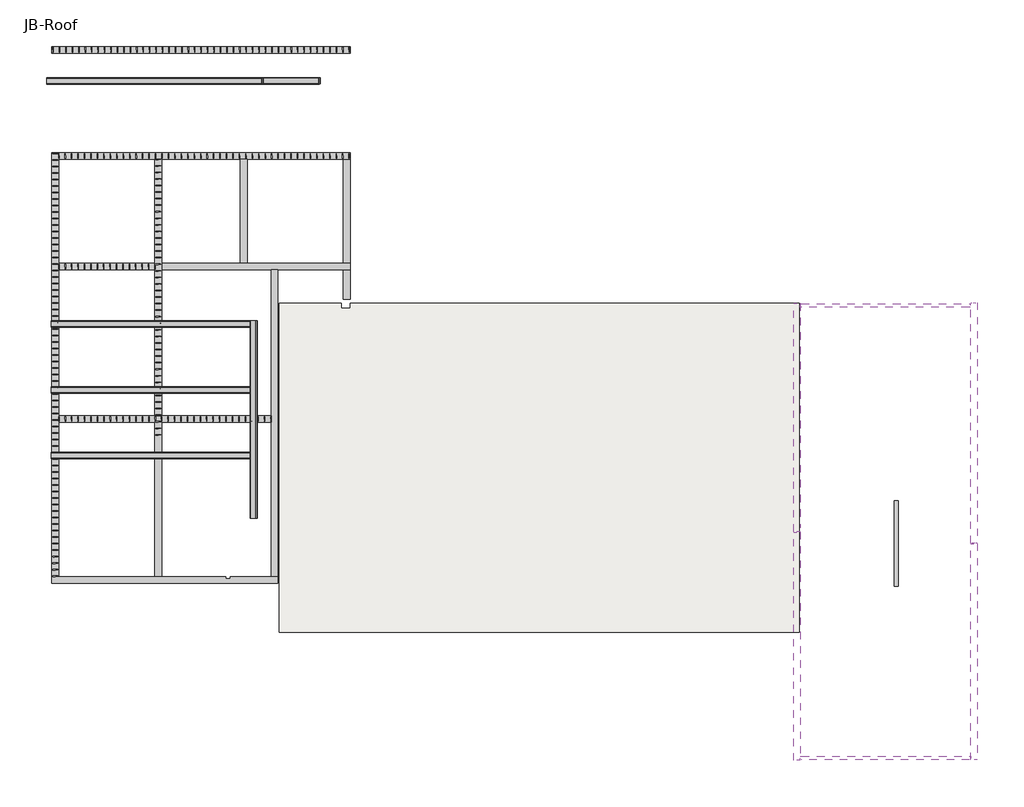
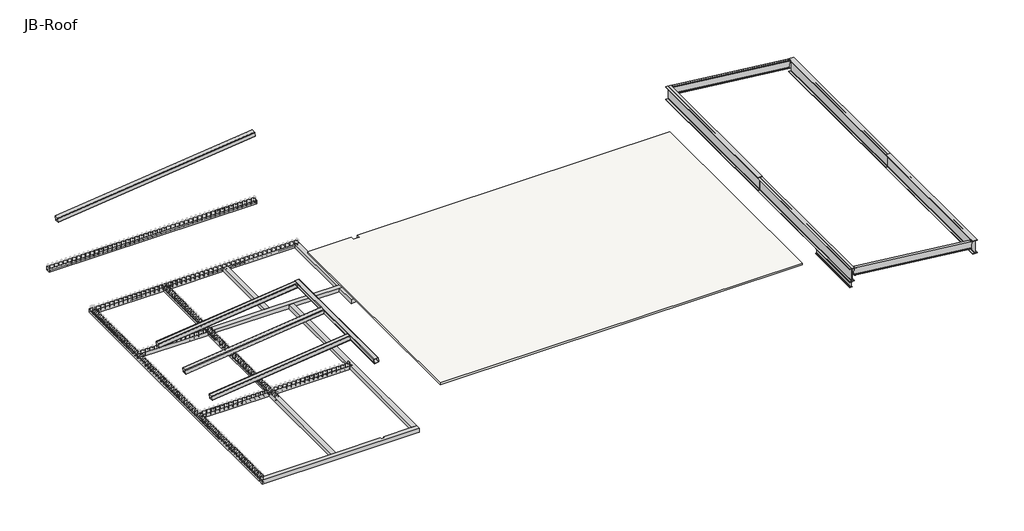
# One storey, part 1 of 3: 27 beams, 1 slab.
"""IFC4 building model written with IfcOpenShell, lengths in millimetres."""

from ifc_helpers import new_model, si_unit, frame, origin, place, context, project, spatial, polyline, outline, extrude, faceted_brep, transform, mapped, element, save
from components import hss_hollow_structural_section_hss12x12x1_2_c205e00b, hss_hollow_structural_section_hss12x12x1_2_65790d26, hss_hollow_structural_section_hss12x12x1_2_75c03b45, hss_hollow_structural_section_hss12x12x1_2_15489e63, hss_hollow_structural_section_hss12x12x1_2_070f9e11, k_series_bar_joist_rod_web_22k4_82dcadde, w_wide_flange_w14x30_17857959, w_wide_flange_w21x44_6d4e9764, w_wide_flange_w21x44_a0252540, w_wide_flange_w36x135_5b543eee, w_wide_flange_w36x135_edb61ff3, w_wide_flange_w36x135_1d218eeb, w_wide_flange_w36x135_915bd06f

model = new_model("IFC4")

# Units and contexts
model_context = context("Model", 3, world=origin())
ifc_project = project(units=[si_unit("LENGTHUNIT", "METRE", prefix="MILLI")], contexts=[model_context])

# Site, building, storey
site = spatial("IfcSite", under=ifc_project)
building = spatial("IfcBuilding", under=site)
storey = spatial("IfcBuildingStorey", under=building, Name="JB-Roof", Elevation=38468.3)

# Beams
placement = place(None, origin())
element("IfcBeam", 1, ObjectType="Concrete-Rectangular Beam : 12 x 18", at=placement, inside=storey, context=model_context, shape_type="Brep", body=[
    faceted_brep([(-20966.7454607, -5025.0304995, 33782.0), (-20560.3454607, -5025.0304995, 33782.0), (-16242.3454607, -5025.0304995, 33782.0), (-15835.9454607, -5025.0304995, 33782.0), (-10936.1763201, -5025.0304995, 33782.0), (-10529.7763201, -5025.0304995, 33782.0), (-10507.5513201, -5025.0304995, 33782.0), (-10507.5513201, -5025.0304995, 34036.0), (-20966.7454607, -5025.0304995, 34036.0), (-20966.7454607, -4720.2304995, 33782.0), (-20661.9454607, -4720.2304995, 33782.0), (-16191.5454607, -4720.2304995, 33782.0), (-15886.7454607, -4720.2304995, 33782.0), (-12913.3579607, -4720.2304995, 33782.0), (-12913.3579607, -4821.8304995, 33782.0), (-12710.1579607, -4821.8304995, 33782.0), (-12710.1579607, -4720.2304995, 33782.0), (-10812.3513201, -4720.2304995, 33782.0), (-10507.5513201, -4720.2304995, 33782.0), (-20966.7454607, -4720.2304995, 34036.0), (-20661.9454607, -4720.2304995, 34036.0), (-16191.5454607, -4720.2304995, 34036.0), (-15886.7454607, -4720.2304995, 34036.0), (-12913.3579607, -4720.2304995, 34036.0), (-10507.5513201, -4720.2304995, 34036.0), (-10812.3513201, -4720.2304995, 34036.0), (-12710.1579607, -4720.2304995, 34036.0), (-12710.1579607, -4821.8304995, 34036.0), (-12913.3579607, -4821.8304995, 34036.0)], [[[0, 1, 2, 3, 4, 5, 6, 7, 8]], [[0, 9, 10, 11, 12, 13, 14, 15, 16, 17, 18, 6, 5, 4, 3, 2, 1]], [[9, 19, 20, 21, 22, 23, 13, 12, 11, 10]], [[9, 0, 8, 19]], [[6, 18, 24, 7]], [[8, 7, 24, 25, 26, 27, 28, 23, 22, 21, 20, 19]], [[28, 14, 13, 23]], [[15, 27, 26, 16]], [[14, 28, 27, 15]], [[24, 18, 17, 16, 26, 25]]]),
])
element("IfcBeam", 2, ObjectType="Concrete-Rectangular Beam : 12 x 18", at=placement, inside=storey, context=model_context, shape_type="Brep", body=[
    faceted_brep([(-20661.9454607, 2429.8695005, 34036.0), (-20661.9454607, 2429.8695005, 33782.0), (-16191.5454607, 2429.8695005, 33782.0), (-15886.7454607, 2429.8695005, 33782.0), (-10812.3513201, 2429.8695005, 33782.0), (-10812.3513201, 2429.8695005, 34036.0), (-15886.7454607, 2429.8695005, 34036.0), (-16191.5454607, 2429.8695005, 34036.0), (-20661.9454607, 2734.6695005, 33782.0), (-16191.5454607, 2734.6695005, 33782.0), (-15886.7454607, 2734.6695005, 33782.0), (-10812.3513201, 2734.6695005, 33782.0), (-20661.9454607, 2734.6695005, 34036.0), (-16191.5454607, 2734.6695005, 34036.0), (-15886.7454607, 2734.6695005, 34036.0), (-10812.3513201, 2734.6695005, 34036.0)], [[[0, 1, 2, 3, 4, 5, 6, 7]], [[1, 8, 9, 10, 11, 4, 3, 2]], [[8, 12, 13, 14, 15, 11, 10, 9]], [[12, 0, 7, 6, 5, 15, 14, 13]], [[1, 0, 12, 8]], [[5, 4, 11, 15]]]),
])
element("IfcBeam", 3, ObjectType="Concrete-Rectangular Beam : 12 x 18", at=placement, inside=storey, context=model_context, shape_type="Brep", body=[
    faceted_brep([(-20661.9454607, -4720.2304995, 33782.0), (-20661.9454607, 2429.8695005, 33782.0), (-20661.9454607, 2734.6695005, 33782.0), (-20661.9454607, 9491.0695005, 33782.0), (-20661.9454607, 9795.8695005, 33782.0), (-20661.9454607, 14621.8695005, 33782.0), (-20661.9454607, 14926.6695005, 33782.0), (-20661.9454607, 14926.6695005, 34036.0), (-20661.9454607, 14621.8695005, 34036.0), (-20661.9454607, 9795.8695005, 34036.0), (-20661.9454607, 9491.0695005, 34036.0), (-20661.9454607, 2734.6695005, 34036.0), (-20661.9454607, 2429.8695005, 34036.0), (-20661.9454607, -4720.2304995, 34036.0), (-20966.7454607, -4720.2304995, 33782.0), (-20966.7454607, -4618.6304995, 33782.0), (-20966.7454607, 2379.0695005, 33782.0), (-20966.7454607, 2785.4695005, 33782.0), (-20966.7454607, 9491.0695005, 33782.0), (-20966.7454607, 9897.4695005, 33782.0), (-20966.7454607, 14520.2695005, 33782.0), (-20966.7454607, 14926.6695005, 33782.0), (-20966.7454607, -4720.2304995, 34036.0), (-20966.7454607, 14926.6695005, 34036.0)], [[[0, 1, 2, 3, 4, 5, 6, 7, 8, 9, 10, 11, 12, 13]], [[0, 14, 15, 16, 17, 18, 19, 20, 21, 6, 5, 4, 3, 2, 1]], [[21, 20, 19, 18, 17, 16, 15, 14, 22, 23]], [[14, 0, 13, 22]], [[13, 12, 11, 10, 9, 8, 7, 23, 22]], [[6, 21, 23, 7]]]),
])
element("IfcBeam", 4, ObjectType="Concrete-Rectangular Beam : 12 x 18", at=placement, inside=storey, context=model_context, shape_type="Brep", body=[
    faceted_brep([(-15886.7454607, 2734.6695005, 34036.0), (-15886.7454607, 2734.6695005, 33782.0), (-15886.7454607, 9491.0695005, 33782.0), (-15886.7454607, 9795.8695005, 33782.0), (-15886.7454607, 14621.8695005, 33782.0), (-15886.7454607, 14621.8695005, 34036.0), (-15886.7454607, 9795.8695005, 34036.0), (-15886.7454607, 9491.0695005, 34036.0), (-15886.7454607, 4866.6820005, 34036.0), (-15886.7454607, 4157.0695005, 34036.0), (-16191.5454607, 2734.6695005, 34036.0), (-16191.5454607, 2734.6695005, 33782.0), (-16191.5454607, 9491.0695005, 34036.0), (-16191.5454607, 9795.8695005, 34036.0), (-16191.5454607, 14621.8695005, 34036.0), (-16191.5454607, 14621.8695005, 33782.0), (-16191.5454607, 9795.8695005, 33782.0), (-16191.5454607, 9491.0695005, 33782.0)], [[[0, 1, 2, 3, 4, 5, 6, 7, 8, 9]], [[1, 0, 10, 11]], [[11, 10, 12, 13, 14, 15, 16, 17]], [[5, 4, 15, 14]], [[1, 11, 17, 16, 15, 4, 3, 2]], [[0, 9, 8, 7, 6, 5, 14, 13, 12, 10]]]),
    faceted_brep([(-15886.7454607, -4720.2304995, 33782.0), (-16191.5454607, -4720.2304995, 33782.0), (-16191.5454607, 2429.8695005, 33782.0), (-15886.7454607, 2429.8695005, 33782.0), (-16191.5454607, 2429.8695005, 34036.0), (-16191.5454607, -4720.2304995, 34036.0), (-15886.7454607, -4720.2304995, 34036.0), (-15886.7454607, 2429.8695005, 34036.0)], [[[0, 1, 2, 3]], [[4, 2, 1, 5]], [[1, 0, 6, 5]], [[6, 7, 4, 5]], [[7, 3, 2, 4]], [[3, 7, 6, 0]]]),
])
element("IfcBeam", 5, ObjectType="Concrete-Rectangular Beam : 12 x 18", at=placement, inside=storey, context=model_context, shape_type="Brep", body=[
    faceted_brep([(-10507.5513201, 8132.1695005, 34036.0), (-10507.5513201, -4720.2304995, 34036.0), (-10507.5513201, -4720.2304995, 33782.0), (-10507.5513201, 9491.0695005, 33782.0), (-10507.5513201, 9491.0695005, 34036.0), (-10812.3513201, -4720.2304995, 33782.0), (-10812.3513201, 2429.8695005, 33782.0), (-10812.3513201, 2734.6695005, 33782.0), (-10812.3513201, 9491.0695005, 33782.0), (-10812.3513201, -4720.2304995, 34036.0), (-10812.3513201, 2429.8695005, 34036.0), (-10812.3513201, 2734.6695005, 34036.0), (-10812.3513201, 9491.0695005, 34036.0)], [[[0, 1, 2, 3, 4]], [[2, 5, 6, 7, 8, 3]], [[5, 9, 10, 11, 12, 8, 7, 6]], [[5, 2, 1, 9]], [[1, 0, 4, 12, 11, 10, 9]], [[4, 3, 8, 12]]]),
])
element("IfcBeam", 6, ObjectType="Concrete-Rectangular Beam : 12 x 18", at=placement, inside=storey, context=model_context, shape_type="Brep", body=[
    faceted_brep([(-20661.9454607, 9491.0695005, 34036.0), (-20661.9454607, 9491.0695005, 33782.0), (-20560.3454607, 9491.0695005, 33782.0), (-16242.3454607, 9491.0695005, 33782.0), (-16191.5454607, 9491.0695005, 33782.0), (-16191.5454607, 9491.0695005, 34036.0), (-20661.9454607, 9795.8695005, 33782.0), (-16191.5454607, 9795.8695005, 33782.0), (-20661.9454607, 9795.8695005, 34036.0), (-16191.5454607, 9795.8695005, 34036.0)], [[[0, 1, 2, 3, 4, 5]], [[1, 6, 7, 4, 3, 2]], [[6, 8, 9, 7]], [[6, 1, 0, 8]], [[5, 4, 7, 9]], [[8, 0, 5, 9]]]),
    faceted_brep([(-7149.1454607, 9491.0695005, 33782.0), (-7149.1454607, 9491.0695005, 34036.0), (-7453.9454607, 9491.0695005, 34036.0), (-10507.5513201, 9491.0695005, 34036.0), (-10812.3513201, 9491.0695005, 34036.0), (-15886.7454607, 9491.0695005, 34036.0), (-15886.7454607, 9491.0695005, 33782.0), (-15835.9454607, 9491.0695005, 33782.0), (-12279.9454607, 9491.0695005, 33782.0), (-11873.5454607, 9491.0695005, 33782.0), (-10812.3513201, 9491.0695005, 33782.0), (-10507.5513201, 9491.0695005, 33782.0), (-7555.5454607, 9491.0695005, 33782.0), (-7453.9454607, 9491.0695005, 33782.0), (-7149.1454607, 9795.8695005, 34036.0), (-7149.1454607, 9795.8695005, 33782.0), (-7453.9454607, 9795.8695005, 33782.0), (-11924.3454607, 9795.8695005, 33782.0), (-12229.1454607, 9795.8695005, 33782.0), (-15886.7454607, 9795.8695005, 33782.0), (-15886.7454607, 9795.8695005, 34036.0), (-12229.1454607, 9795.8695005, 34036.0), (-11924.3454607, 9795.8695005, 34036.0), (-7453.9454607, 9795.8695005, 34036.0)], [[[0, 1, 2, 3, 4, 5, 6, 7, 8, 9, 10, 11, 12, 13]], [[14, 15, 16, 17, 18, 19, 20, 21, 22, 23]], [[15, 0, 13, 12, 11, 10, 9, 8, 7, 6, 19, 18, 17, 16]], [[0, 15, 14, 1]], [[1, 14, 23, 22, 21, 20, 5, 4, 3, 2]], [[6, 5, 20, 19]]]),
])
element("IfcBeam", 7, ObjectType="Concrete-Rectangular Beam : 12 x 18", at=placement, inside=storey, context=model_context, shape_type="Brep", body=[
    faceted_brep([(-20661.9454607, 14621.8695005, 33782.0), (-16191.5454607, 14621.8695005, 33782.0), (-15886.7454607, 14621.8695005, 33782.0), (-12229.1454607, 14621.8695005, 33782.0), (-11924.3454607, 14621.8695005, 33782.0), (-7453.9454607, 14621.8695005, 33782.0), (-7149.1454607, 14621.8695005, 33782.0), (-7149.1454607, 14621.8695005, 34036.0), (-7453.9454607, 14621.8695005, 34036.0), (-11924.3454607, 14621.8695005, 34036.0), (-12229.1454607, 14621.8695005, 34036.0), (-15886.7454607, 14621.8695005, 34036.0), (-16191.5454607, 14621.8695005, 34036.0), (-20661.9454607, 14621.8695005, 34036.0), (-20661.9454607, 14926.6695005, 33782.0), (-20560.3454607, 14926.6695005, 33782.0), (-16242.3454607, 14926.6695005, 33782.0), (-15835.9454607, 14926.6695005, 33782.0), (-12279.9454607, 14926.6695005, 33782.0), (-11873.5454607, 14926.6695005, 33782.0), (-7555.5454607, 14926.6695005, 33782.0), (-7149.1454607, 14926.6695005, 33782.0), (-20661.9454607, 14926.6695005, 34036.0), (-7149.1454607, 14926.6695005, 34036.0)], [[[0, 1, 2, 3, 4, 5, 6, 7, 8, 9, 10, 11, 12, 13]], [[0, 14, 15, 16, 17, 18, 19, 20, 21, 6, 5, 4, 3, 2, 1]], [[21, 20, 19, 18, 17, 16, 15, 14, 22, 23]], [[14, 0, 13, 22]], [[13, 12, 11, 10, 9, 8, 7, 23, 22]], [[6, 21, 23, 7]]]),
])
element("IfcBeam", 8, ObjectType="Concrete-Rectangular Beam : 12 x 18", at=placement, inside=storey, context=model_context, shape_type="SweptSolid", body=[
    extrude(outline(polyline([(-11924.3454607, 9795.8695005), (-12229.1454607, 9795.8695005), (-12229.1454607, 14621.8695005), (-11924.3454607, 14621.8695005), (-11924.3454607, 9795.8695005)])), frame((0.0, 0.0, 33782.0), z_axis=(0.0, 0.0, 1.0), x_axis=(1.0, 0.0, 0.0)), (0.0, 0.0, 1.0), 254.0),
])
element("IfcBeam", 9, ObjectType="Concrete-Rectangular Beam : 12 x 18", at=placement, inside=storey, context=model_context, shape_type="Brep", body=[
    faceted_brep([(-7453.9454607, 14621.8695005, 33782.0), (-7453.9454607, 9795.8695005, 33782.0), (-7453.9454607, 9795.8695005, 34036.0), (-7453.9454607, 14621.8695005, 34036.0), (-7149.1454607, 9795.8695005, 33782.0), (-7149.1454607, 14621.8695005, 33782.0), (-7149.1454607, 14520.2695005, 33782.0), (-7149.1454607, 9897.4695005, 33782.0), (-7149.1454607, 14621.8695005, 34036.0), (-7149.1454607, 9795.8695005, 34036.0)], [[[0, 1, 2, 3]], [[4, 1, 0, 5, 6, 7]], [[4, 7, 6, 5, 8, 9]], [[1, 4, 9, 2]], [[5, 0, 3, 8]], [[3, 2, 9, 8]]]),
])
element("IfcBeam", 10, ObjectType="Concrete-Rectangular Beam : 12 x 18", at=placement, inside=storey, context=model_context, shape_type="SweptSolid", body=[
    extrude(outline(polyline([(-7149.1454607, 19847.9195005), (-7149.1454607, 19543.1195005), (-20966.7454607, 19543.1195005), (-20966.7454607, 19847.9195005), (-7149.1454607, 19847.9195005)])), frame((0.0, 0.0, 33782.0), z_axis=(0.0, 0.0, 1.0), x_axis=(1.0, 0.0, 0.0)), (0.0, 0.0, 1.0), 254.0),
])
element("IfcBeam", 11, ObjectType="Concrete-Rectangular Beam : 12 x 18", at=placement, inside=storey, context=model_context, shape_type="SweptSolid", body=[
    extrude(outline(polyline([(-7453.9454607, 8132.1695005), (-7453.9454607, 9491.0695005), (-7149.1454607, 9491.0695005), (-7149.1454607, 8132.1695005), (-7453.9454607, 8132.1695005)])), frame((0.0, 0.0, 33782.0), z_axis=(0.0, 0.0, 1.0), x_axis=(1.0, 0.0, 0.0)), (0.0, 0.0, 1.0), 254.0),
])
hss_hollow_structural_section_hss12x12x1_2_shape = hss_hollow_structural_section_hss12x12x1_2_c205e00b(model_context)
element("IfcBeam", 12, ObjectType="HSS-Hollow Structural Section : HSS12X12X1/2", at=placement, inside=storey, context=model_context, shape_type="MappedRepresentation", body=[
    mapped(hss_hollow_structural_section_hss12x12x1_2_shape, transform((-11619.5622499, 2480.6695005, 37366.8520628), x_axis=(0.0, -1.0, 0.0), y_axis=(0.9938030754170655, 0.0, 0.11115505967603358), z_axis=(-0.11115505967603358, 0.0, 0.9938030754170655))),
])
hss_hollow_structural_section_hss12x12x1_2_2_shape = hss_hollow_structural_section_hss12x12x1_2_65790d26(model_context)
element("IfcBeam", 13, ObjectType="HSS-Hollow Structural Section : HSS12X12X1/2", at=placement, inside=storey, context=model_context, shape_type="MappedRepresentation", body=[
    mapped(hss_hollow_structural_section_hss12x12x1_2_2_shape, transform((-14730.32539, 18252.7995005, 39127.1188846), x_axis=(-0.9938030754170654, 0.0, -0.11115505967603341), y_axis=(0.0, -1.0, 0.0), z_axis=(-0.11115505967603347, 0.0, 0.9938030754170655))),
])
hss_hollow_structural_section_hss12x12x1_2_3_shape = hss_hollow_structural_section_hss12x12x1_2_75c03b45(model_context)
element("IfcBeam", 14, ObjectType="HSS-Hollow Structural Section : HSS12X12X1/2", at=placement, inside=storey, context=model_context, shape_type="MappedRepresentation", body=[
    mapped(hss_hollow_structural_section_hss12x12x1_2_3_shape, transform((-16306.6763225, 880.4695005, 36842.6069107), x_axis=(0.9938030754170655, 0.0, 0.11115505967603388), y_axis=(0.0, 1.0000000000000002, 0.0), z_axis=(-0.11115505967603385, 0.0, 0.9938030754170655))),
])
hss_hollow_structural_section_hss12x12x1_2_4_shape = hss_hollow_structural_section_hss12x12x1_2_15489e63(model_context)
element("IfcBeam", 15, ObjectType="HSS-Hollow Structural Section : HSS12X12X1/2", at=placement, inside=storey, context=model_context, shape_type="MappedRepresentation", body=[
    mapped(hss_hollow_structural_section_hss12x12x1_2_4_shape, transform((-16306.9056735, 6976.4695005, 36842.5812582), x_axis=(0.9938030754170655, 0.0, 0.1111550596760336), y_axis=(0.0, 1.0000000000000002, 0.0), z_axis=(-0.1111550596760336, 0.0, 0.9938030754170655))),
])
hss_hollow_structural_section_hss12x12x1_2_5_shape = hss_hollow_structural_section_hss12x12x1_2_070f9e11(model_context)
element("IfcBeam", 16, ObjectType="HSS-Hollow Structural Section : HSS12X12X1/2", at=placement, inside=storey, context=model_context, shape_type="MappedRepresentation", body=[
    mapped(hss_hollow_structural_section_hss12x12x1_2_5_shape, transform((-16306.6771812, 3928.4695005, 36842.6068146), x_axis=(0.9938030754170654, 0.0, 0.11115505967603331), y_axis=(0.0, 1.0, 0.0), z_axis=(-0.11115505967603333, 0.0, 0.9938030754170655))),
])
k_series_bar_joist_rod_web_22k4_shape = k_series_bar_joist_rod_web_22k4_82dcadde(model_context)
element("IfcBeam", 17, ObjectType="K-Series Bar Joist-Rod Web : 22K4", at=placement, inside=storey, context=model_context, shape_type="MappedRepresentation", body=[
    mapped(k_series_bar_joist_rod_web_22k4_shape, transform((-8799.8279607, -2186.2515659, 38188.9), x_axis=(0.0, -1.0, 0.0), y_axis=(1.0, 0.0, 0.0), z_axis=(0.0, 0.0, 1.0))),
])
element("IfcBeam", 18, ObjectType="K-Series Bar Joist-Rod Web : 22K4", at=placement, inside=storey, context=model_context, shape_type="MappedRepresentation", body=[
    mapped(k_series_bar_joist_rod_web_22k4_shape, transform((-7272.3354607, -2187.3664501, 38188.9), x_axis=(0.0, -1.0, 0.0), y_axis=(1.0, 0.0, 0.0), z_axis=(0.0, 0.0, 1.0))),
])
element("IfcBeam", 19, ObjectType="K-Series Bar Joist-Rod Web : 22K4", at=placement, inside=storey, context=model_context, shape_type="MappedRepresentation", body=[
    mapped(k_series_bar_joist_rod_web_22k4_shape, transform((-5744.8429607, -2188.4813342, 38188.9), x_axis=(0.0, -1.0, 0.0), y_axis=(1.0, 0.0, 0.0), z_axis=(0.0, 0.0, 1.0))),
])
element("IfcBeam", 20, ObjectType="K-Series Bar Joist-Rod Web : 22K4", at=placement, inside=storey, context=model_context, shape_type="MappedRepresentation", body=[
    mapped(k_series_bar_joist_rod_web_22k4_shape, transform((-4217.3504607, -2189.5962184, 38188.9), x_axis=(0.0, -1.0, 0.0), y_axis=(1.0, 0.0, 0.0), z_axis=(0.0, 0.0, 1.0))),
])
w_wide_flange_w14x30_shape = w_wide_flange_w14x30_17857959(model_context)
element("IfcBeam", 21, ObjectType="W-Wide Flange : W14X30", at=placement, inside=storey, context=model_context, shape_type="MappedRepresentation", body=[
    mapped(w_wide_flange_w14x30_shape, transform((18172.4717268, -3175.5929995, 34203.1339844), x_axis=(0.0, -1.0, 0.0), y_axis=(1.0, 0.0, 0.0), z_axis=(0.0, 0.0, 1.0))),
])
w_wide_flange_w21x44_shape = w_wide_flange_w21x44_6d4e9764(model_context)
element("IfcBeam", 22, ObjectType="W-Wide Flange : W21X44", at=placement, inside=storey, context=model_context, shape_type="MappedRepresentation", body=[
    mapped(w_wide_flange_w21x44_shape, transform((17645.9365475, -13140.3801089, 41130.1521404), x_axis=(0.993803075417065, 0.0, -0.11115505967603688), y_axis=(0.0, 1.0, 0.0), z_axis=(0.11115505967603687, 0.0, 0.9938030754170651))),
])
w_wide_flange_w21x44_2_shape = w_wide_flange_w21x44_a0252540(model_context)
element("IfcBeam", 23, ObjectType="W-Wide Flange : W21X44", at=placement, inside=storey, context=model_context, shape_type="MappedRepresentation", body=[
    mapped(w_wide_flange_w21x44_2_shape, transform((17638.6854017, 7843.2445005, 41130.9631679), x_axis=(0.9938030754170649, 0.0, -0.11115505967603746), y_axis=(0.0, 1.0, 0.0), z_axis=(0.1111550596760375, 0.0, 0.993803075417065))),
])
w_wide_flange_w36x135_shape = w_wide_flange_w36x135_5b543eee(model_context)
element("IfcBeam", 24, ObjectType="W-Wide Flange : W36X135", at=placement, inside=storey, context=model_context, shape_type="MappedRepresentation", body=[
    mapped(w_wide_flange_w36x135_shape, transform((13565.7883392, 2597.3376982, 41398.9185367), x_axis=(-1.2852700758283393e-05, -0.9999999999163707, 1.4375511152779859e-06), y_axis=(0.9999999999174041, -1.2852700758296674e-05, 0.0), z_axis=(1.8476414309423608e-11, 1.4375511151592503e-06, 0.9999999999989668))),
])
w_wide_flange_w36x135_2_shape = w_wide_flange_w36x135_edb61ff3(model_context)
element("IfcBeam", 25, ObjectType="W-Wide Flange : W36X135", at=placement, inside=storey, context=model_context, shape_type="MappedRepresentation", body=[
    mapped(w_wide_flange_w36x135_2_shape, transform((13565.6534911, -7894.4746065, 41398.9336192), x_axis=(-1.2852700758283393e-05, -0.9999999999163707, 1.4375511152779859e-06), y_axis=(0.999999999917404, -1.2852700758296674e-05, 0.0), z_axis=(1.8476414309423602e-11, 1.4375511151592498e-06, 0.9999999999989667))),
])
w_wide_flange_w36x135_3_shape = w_wide_flange_w36x135_1d218eeb(model_context)
element("IfcBeam", 26, ObjectType="W-Wide Flange : W36X135", at=placement, inside=storey, context=model_context, shape_type="MappedRepresentation", body=[
    mapped(w_wide_flange_w36x135_3_shape, transform((21769.9581474, 2329.8487323, 40481.2971213), x_axis=(0.0, -1.0, 0.0), y_axis=(1.0, 0.0, 0.0), z_axis=(0.0, 0.0, 1.0))),
])
w_wide_flange_w36x135_4_shape = w_wide_flange_w36x135_915bd06f(model_context)
element("IfcBeam", 27, ObjectType="W-Wide Flange : W36X135", at=placement, inside=storey, context=model_context, shape_type="MappedRepresentation", body=[
    mapped(w_wide_flange_w36x135_4_shape, transform((21777.34403, -8161.8885485, 40480.4710176), x_axis=(0.0014836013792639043, -0.9999988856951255, -0.00016593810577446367), y_axis=(0.9999988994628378, 0.0014836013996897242, 0.0), z_axis=(2.461860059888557e-07, -0.00016593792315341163, 0.9999999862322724))),
])

# Slab
element("IfcSlab", 28, ObjectType="ROOF - 2\" Metal Deck w 3\" Rigid Insulation", at=placement, inside=storey, context=model_context, shape_type="SweptSolid", body=[
    extrude(outline(polyline([(13669.3295393, 7944.8445005), (13669.3295393, -7314.2054995), (-10428.9204607, -7314.2054995), (-10428.9204607, 7944.8445005), (-7555.5454607, 7944.8445005), (-7555.5454607, 7725.7695005), (-7149.1454607, 7725.7695005), (-7149.1454607, 7944.8445005), (13669.3295393, 7944.8445005)])), frame((0.0, 0.0, 38468.3), z_axis=(0.0, 0.0, 1.0), x_axis=(1.0, 0.0, 0.0)), (0.0, 0.0, 1.0), 127.0),
])

save(model, "model.ifc")
